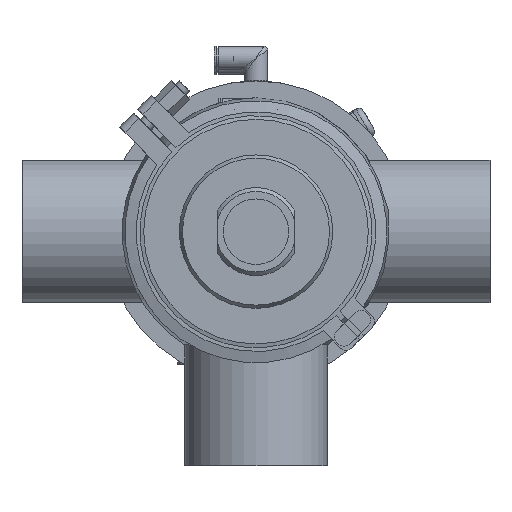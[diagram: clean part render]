
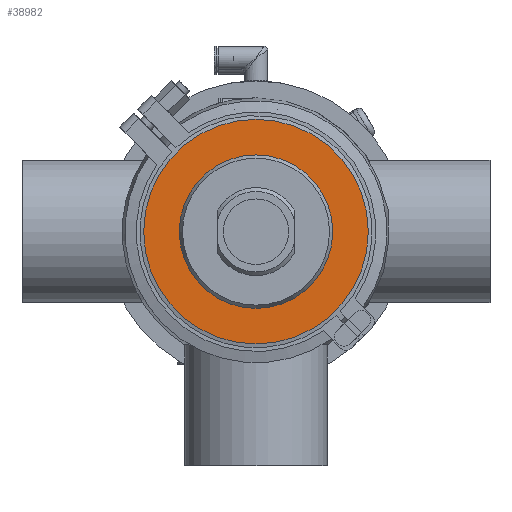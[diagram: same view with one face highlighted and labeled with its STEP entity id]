
A CAD part, front view. The second image highlights one B-rep face of the part: STEP entity #38982.
In plain terms, the highlighted planar face has unit normal (0, -1, 0).
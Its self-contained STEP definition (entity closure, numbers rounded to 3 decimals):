
#3560 = PLANE ( 'NONE',  #21682 ) ;
#7611 = CARTESIAN_POINT ( 'NONE',  ( 0., -13., 41. ) ) ;
#7755 = FACE_BOUND ( 'NONE', #53734, .T. ) ;
#9868 = CIRCLE ( 'NONE', #17054, 60. ) ;
#16824 = ORIENTED_EDGE ( 'NONE', *, *, #60183, .T. ) ;
#17016 = EDGE_CURVE ( 'NONE', #53079, #53079, #9868, .T. ) ;
#17054 = AXIS2_PLACEMENT_3D ( 'NONE', #28037, #24172, #33531 ) ;
#17993 = DIRECTION ( 'NONE',  ( 0., 0., 1. ) ) ;
#18365 = DIRECTION ( 'NONE',  ( 0., 0., -1. ) ) ;
#21682 = AXIS2_PLACEMENT_3D ( 'NONE', #52983, #57224, #18365 ) ;
#24172 = DIRECTION ( 'NONE',  ( 0., 1., 0. ) ) ;
#27785 = CIRCLE ( 'NONE', #59614, 41. ) ;
#28037 = CARTESIAN_POINT ( 'NONE',  ( 0., -13., 0. ) ) ;
#33531 = DIRECTION ( 'NONE',  ( 0., 0., 1. ) ) ;
#38982 = ADVANCED_FACE ( 'NONE', ( #7755, #47175 ), #3560, .T. ) ;
#42607 = VERTEX_POINT ( 'NONE', #7611 ) ;
#43425 = CARTESIAN_POINT ( 'NONE',  ( 0., -13., 60. ) ) ;
#47175 = FACE_OUTER_BOUND ( 'NONE', #59546, .T. ) ;
#52575 = CARTESIAN_POINT ( 'NONE',  ( 0., -13., 0. ) ) ;
#52983 = CARTESIAN_POINT ( 'NONE',  ( -60., -13., 0. ) ) ;
#53079 = VERTEX_POINT ( 'NONE', #43425 ) ;
#53734 = EDGE_LOOP ( 'NONE', ( #16824 ) ) ;
#55321 = ORIENTED_EDGE ( 'NONE', *, *, #17016, .F. ) ;
#57224 = DIRECTION ( 'NONE',  ( 0., -1., 0. ) ) ;
#59546 = EDGE_LOOP ( 'NONE', ( #55321 ) ) ;
#59614 = AXIS2_PLACEMENT_3D ( 'NONE', #52575, #62567, #17993 ) ;
#60183 = EDGE_CURVE ( 'NONE', #42607, #42607, #27785, .T. ) ;
#62567 = DIRECTION ( 'NONE',  ( 0., 1., 0. ) ) ;
